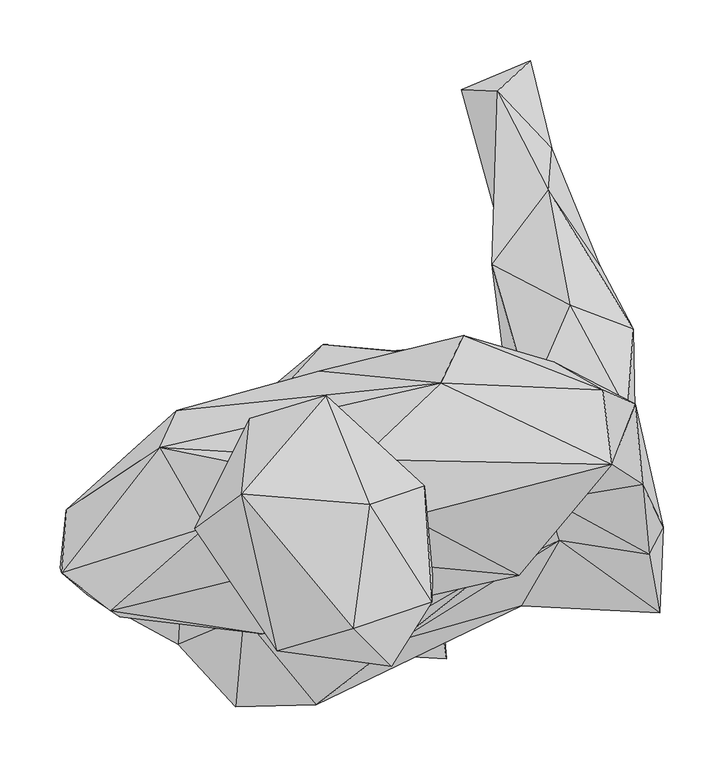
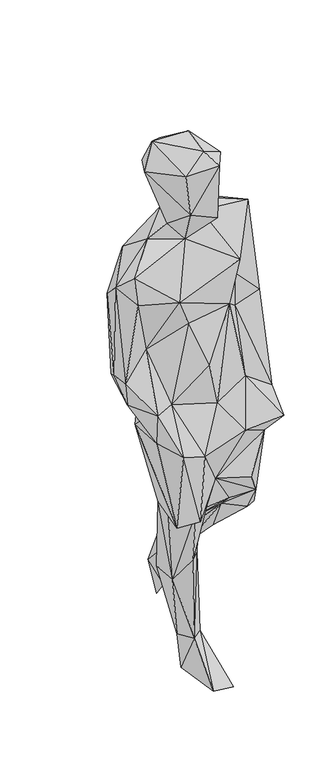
"""IFC4 building model written with IfcOpenShell, lengths in millimetres: geographic element geometry, Enscape AssetDefinition - Darren de pie : Enscape AssetDefinition - Darren de pie."""

from ifc_helpers import new_model, si_unit, origin, place, context, project, spatial, faceted_brep, source, transform, mapped, element, save


def geographic_element_951a75af(model_context):
    return source(origin(), model_context, "Body", "Brep", [
        faceted_brep([(-175.0520021, -135.8589381, 602.9966474), (-163.3060724, -150.258705, 835.2176547), (-212.7413452, -94.6066454, 864.3326163), (-96.8702659, -148.5006809, 813.1714463), (-111.0401526, -148.9570439, 609.7560525), (-210.7461989, -98.2803404, 953.6424279), (-156.5514654, -75.8557767, 958.7072134), (-12.0859109, -55.90811, 658.303678), (-81.033662, -73.7346262, 585.6804848), (-140.8232152, -29.2263553, 580.508709), (73.2453912, -66.4542317, 789.5464301), (-27.754318, -95.2774808, 930.932343), (187.625587, -72.4337772, 801.9232154), (158.1702083, -20.8633747, 734.6653342), (104.6687216, -12.4814492, 922.4325418), (-53.2702655, -96.335113, 1061.0399246), (37.6339741, -43.623548, 1196.2201595), (178.9060831, -24.0756664, 873.2705712), (93.5326219, 22.478994, 1132.1063042), (190.8491552, -1.5880837, 823.5324621), (173.5562533, 33.6819924, 1148.6685276), (91.8945819, 20.1336313, 1237.8028631), (167.3244387, 100.5585343, 1185.7732534), (148.1512338, 50.1674265, 1436.6855621), (167.1218425, 26.9579478, 840.3288722), (167.8819954, 51.3752103, 457.5271904), (113.5702729, 80.2846178, 974.570632), (161.0231698, 94.2469537, 554.8815131), (141.6994035, 101.4198139, 815.9306049), (101.0675579, -49.8163477, 620.1064587), (142.5844431, -2.1540476, 537.052393), (-29.1882344, -37.8935002, 559.8763227), (62.6793727, 0.535233, 535.582602), (125.703007, 12.043803, 478.7744284), (69.3136379, 53.4031354, 483.4520221), (-19.3877835, 19.444719, 497.792989), (-71.6071948, -39.9355404, 406.8828225), (-113.3821905, -5.9414823, 338.0956352), (-29.4547658, 10.8585693, 387.7301514), (-38.5023877, 9.2450986, 113.3921519), (5.0286846, 73.6954063, 536.6700888), (-57.4073493, 56.6138737, 478.2316685), (-7.2063049, 33.454787, 113.494657), (-27.2490215, 67.7391514, 191.3085431), (-75.0181898, 88.444449, 347.4174738), (-111.0924408, 48.3090505, 524.3985653), (-37.693467, 72.0168948, 664.1724706), (30.6440648, 150.55269, 701.4750838), (80.1630765, 106.2920764, 523.9448547), (-51.8161282, 142.5706446, 770.2787519), (-156.4739794, 54.8016727, 724.3626714), (94.9821919, 133.2202703, 766.9541836), (48.9790216, 216.0215825, 366.8949008), (113.3481339, 182.2576374, 471.3181555), (-90.7666981, 149.6881992, 868.1719899), (30.4233246, 138.086006, 1021.4390755), (165.8946127, 162.4125689, 447.0600784), (95.4958946, 277.4346769, 328.8091123), (137.9718482, 215.2292877, 292.4790382), (93.3329239, 273.8564909, 215.1512951), (98.6000374, 312.0972812, 230.3078026), (53.1905778, 359.3946695, 208.9520395), (80.4840922, 384.7211897, 88.919878), (50.3191613, 324.8931468, 64.3996671), (56.419231, 242.173329, 279.3651223), (23.454966, 360.9244823, 133.1062317), (41.2489399, 348.4312594, 23.644872), (89.4223377, 95.8551317, 1135.1369619), (-158.986643, 75.5290538, 1019.010067), (25.3396966, 157.0703983, 1366.210103), (-32.8387097, 139.9824172, 1111.348629), (99.9980867, 135.0812316, 1335.9570503), (140.6349093, 111.9162589, 1394.5245743), (-93.6595351, 127.5315881, 1250.4668236), (6.7929211, 117.7891269, 1465.3294086), (-212.077871, 94.9453488, 1333.2099915), (-226.1579037, 64.3340051, 1407.8316689), (-60.1532608, 54.3997698, 1516.5278912), (-218.2919234, 48.4350696, 1194.7147846), (-303.5499454, 12.5342691, 1315.5214787), (-294.7611213, 5.4183425, 1057.1959019), (-308.3614707, -35.0785851, 1082.3328495), (-307.2530627, -39.5458825, 1366.1339283), (-272.29774, -43.4838273, 977.9167175), (-210.5426043, -31.6804498, 910.7726812), (-182.4664623, 73.5689849, 813.7336969), (-286.4044011, -57.1126454, 1057.6130152), (-259.1740191, -75.8802444, 1312.3488426), (-207.193464, -28.5981894, 1126.1886358), (-141.2128955, -89.769043, 1289.5863056), (-103.6386415, -73.3504444, 1200.3800869), (-266.7931318, -70.668295, 1399.0288973), (-87.2213542, -26.6580284, 1438.5887384), (71.0682273, -41.4217673, 1325.537324), (-20.7648166, 6.9244346, 1487.6384735), (-6.8731997, 32.4015245, 1692.8540468), (-0.5697221, -41.3909368, 1554.3167591), (-52.0675257, 17.170893, 1747.6387024), (-0.6475974, -63.5464117, 1711.2029791), (-88.5276124, 107.1826071, 1683.1262112), (-122.0533699, 43.2489514, 1513.2527351), (-151.7291516, 88.4760991, 1645.6769705), (-158.4454328, 25.8241277, 1745.3731298), (-65.7881275, -85.5342224, 1748.6617565), (-34.359172, -116.9832721, 1709.8090649), (-129.1771978, -103.9991081, 1700.3387213), (-197.4468529, -2.7859216, 1678.0405045), (-137.4868751, -16.5221449, 1500.7811785), (-107.1496084, -90.1404172, 1559.6834421), (-32.0264399, -100.5738229, 1531.5188169), (-188.2515252, -1.5826636, 1458.357811), (-146.1224407, 14.2218322, 589.1522169), (-129.7511309, 51.6627841, 352.2439301), (-63.6071265, 57.2790094, 106.59834), (-53.9011471, 53.1237721, -1.339527), (-3.7006882, 76.183252, 10.0258971), (-46.9814911, -107.1678847, 16.5971313), (11.1468313, -110.222742, 12.6055749)], [[[0, 1, 2]], [[3, 1, 4]], [[4, 1, 0]], [[5, 1, 6]], [[2, 1, 5]], [[1, 3, 6]], [[7, 4, 8]], [[4, 9, 8]], [[0, 9, 4]], [[7, 3, 4]], [[10, 3, 7]], [[11, 3, 10]], [[6, 3, 11]], [[12, 10, 13]], [[14, 11, 10]], [[14, 10, 12]], [[13, 10, 7]], [[15, 11, 16]], [[16, 11, 14]], [[15, 6, 11]], [[17, 14, 12]], [[18, 14, 17]], [[14, 18, 16]], [[19, 12, 13]], [[19, 17, 12]], [[20, 18, 17]], [[19, 20, 17]], [[21, 16, 18]], [[20, 21, 18]], [[19, 22, 20]], [[23, 21, 20]], [[22, 23, 20]], [[24, 19, 13]], [[22, 19, 24]], [[25, 24, 13]], [[22, 24, 26]], [[25, 27, 24]], [[27, 28, 24]], [[28, 26, 24]], [[13, 7, 29]], [[13, 29, 30]], [[30, 25, 13]], [[7, 8, 31]], [[32, 7, 31]], [[30, 7, 32]], [[29, 7, 30]], [[25, 30, 33]], [[34, 30, 32]], [[33, 30, 34]], [[32, 35, 34]], [[32, 31, 35]], [[31, 8, 36]], [[35, 31, 36]], [[37, 8, 9]], [[36, 8, 37]], [[38, 35, 36]], [[36, 37, 39]], [[38, 36, 39]], [[40, 35, 41]], [[40, 34, 35]], [[38, 41, 35]], [[38, 39, 42]], [[43, 41, 38]], [[42, 43, 38]], [[41, 44, 45]], [[44, 41, 43]], [[46, 41, 45]], [[40, 41, 46]], [[47, 40, 46]], [[48, 34, 40]], [[47, 48, 40]], [[49, 47, 46]], [[50, 46, 45]], [[50, 49, 46]], [[51, 48, 47]], [[49, 51, 47]], [[52, 34, 48]], [[27, 48, 51]], [[53, 52, 48]], [[27, 53, 48]], [[49, 54, 51]], [[51, 28, 27]], [[54, 55, 51]], [[51, 55, 28]], [[25, 56, 27]], [[53, 27, 56]], [[53, 57, 52]], [[53, 56, 57]], [[56, 58, 57]], [[58, 56, 25]], [[25, 33, 58]], [[59, 60, 58]], [[60, 57, 58]], [[34, 58, 33]], [[59, 58, 34]], [[57, 61, 52]], [[57, 60, 61]], [[62, 61, 60]], [[63, 60, 59]], [[62, 60, 63]], [[59, 64, 63]], [[34, 64, 59]], [[52, 64, 34]], [[61, 64, 52]], [[65, 64, 61]], [[62, 65, 61]], [[66, 62, 63]], [[65, 62, 66]], [[65, 63, 64]], [[65, 66, 63]], [[55, 26, 28]], [[67, 26, 55]], [[22, 26, 67]], [[55, 54, 68]], [[69, 55, 70]], [[70, 55, 68]], [[69, 67, 55]], [[69, 71, 67]], [[22, 67, 71]], [[72, 23, 22]], [[71, 72, 22]], [[69, 72, 71]], [[69, 70, 73]], [[74, 69, 73]], [[74, 72, 69]], [[73, 70, 68]], [[75, 73, 68]], [[74, 73, 75]], [[75, 76, 74]], [[72, 74, 23]], [[74, 76, 77]], [[74, 77, 23]], [[75, 78, 79]], [[76, 75, 79]], [[78, 75, 68]], [[68, 80, 78]], [[79, 78, 80]], [[81, 79, 80]], [[82, 79, 81]], [[76, 79, 82]], [[81, 80, 83]], [[80, 84, 83]], [[68, 84, 80]], [[54, 85, 68]], [[84, 68, 85]], [[84, 85, 2]], [[84, 2, 83]], [[83, 86, 81]], [[83, 2, 5]], [[86, 83, 5]], [[82, 81, 86]], [[87, 82, 86]], [[88, 86, 5]], [[88, 87, 86]], [[6, 88, 5]], [[89, 88, 90]], [[90, 88, 6]], [[89, 87, 88]], [[91, 82, 87]], [[91, 87, 89]], [[92, 91, 89]], [[92, 89, 93]], [[93, 89, 16]], [[89, 90, 16]], [[90, 15, 16]], [[90, 6, 15]], [[93, 16, 21]], [[92, 93, 94]], [[94, 93, 23]], [[93, 21, 23]], [[77, 95, 94]], [[96, 92, 94]], [[94, 95, 96]], [[23, 77, 94]], [[95, 97, 98]], [[95, 77, 99]], [[99, 97, 95]], [[96, 95, 98]], [[77, 100, 99]], [[100, 77, 76]], [[99, 101, 102]], [[99, 102, 97]], [[99, 100, 101]], [[97, 103, 98]], [[97, 102, 103]], [[104, 96, 98]], [[98, 103, 104]], [[102, 105, 103]], [[104, 103, 105]], [[101, 106, 102]], [[106, 105, 102]], [[100, 106, 101]], [[106, 107, 108]], [[105, 106, 108]], [[107, 106, 100]], [[104, 105, 108]], [[104, 108, 109]], [[109, 96, 104]], [[108, 107, 92]], [[92, 109, 108]], [[107, 110, 92]], [[107, 100, 110]], [[92, 110, 91]], [[109, 92, 96]], [[110, 82, 91]], [[76, 82, 110]], [[110, 100, 76]], [[2, 85, 0]], [[85, 111, 0]], [[85, 49, 50]], [[50, 111, 85]], [[85, 54, 49]], [[111, 9, 0]], [[9, 111, 37]], [[45, 111, 50]], [[37, 111, 112]], [[45, 112, 111]], [[113, 37, 112]], [[37, 113, 39]], [[112, 44, 113]], [[45, 44, 112]], [[113, 114, 39]], [[113, 115, 114]], [[44, 43, 113]], [[113, 43, 115]], [[39, 114, 116]], [[116, 42, 39]], [[114, 115, 117]], [[116, 114, 117]], [[43, 42, 115]], [[115, 42, 117]], [[117, 42, 116]]]),
    ])


if __name__ == "__main__":
    model = new_model("IFC4")
    model_context = context("Model", 3, world=origin())
    ifc_project = project(units=[si_unit("LENGTHUNIT", "METRE", prefix="MILLI")], contexts=[model_context])
    site = spatial("IfcSite", under=ifc_project)
    building = spatial("IfcBuilding", under=site)
    placement = place(None, origin())
    geographic_element_shape = geographic_element_951a75af(model_context)
    element("IfcGeographicElement", 1, ObjectType="Enscape AssetDefinition - Darren de pie : Enscape AssetDefinition - Darren de pie", at=placement, inside=building, context=model_context, shape_type="MappedRepresentation", body=[
        mapped(geographic_element_shape, transform((0.0, 0.0, 0.0), x_axis=(1.0, 0.0, 0.0), y_axis=(0.0, 1.0, 0.0), z_axis=(0.0, 0.0, 1.0))),
    ])
    save(model, "model.ifc")
